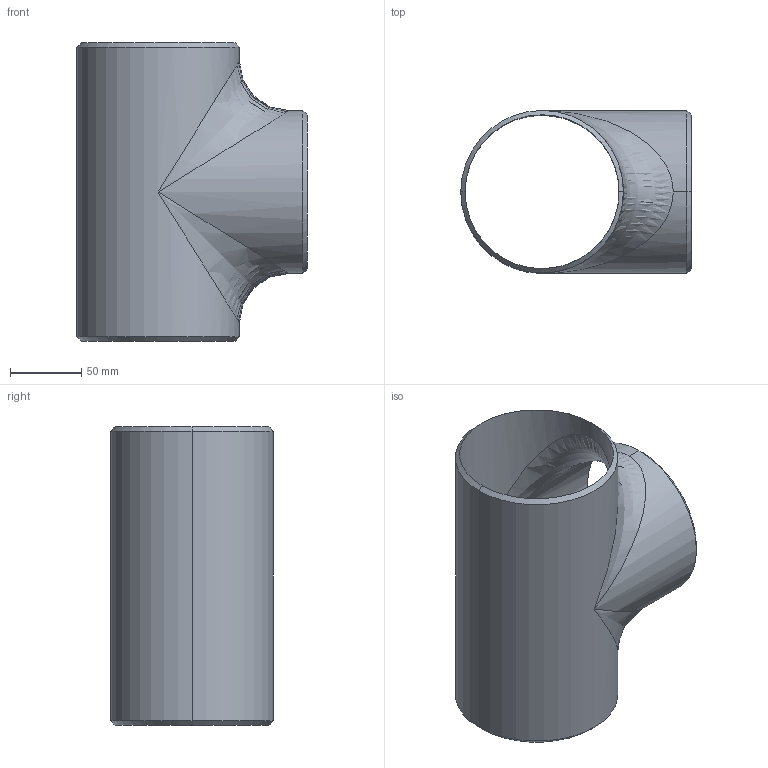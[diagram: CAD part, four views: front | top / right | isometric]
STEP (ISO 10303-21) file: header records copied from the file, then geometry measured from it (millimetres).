
FILE_DESCRIPTION (( 'STEP AP203' ), '1' );
FILE_NAME ('3D_R266_4x10S_173445210.STEP', '2024-08-23T11:14:54', ( '' ), ( '' ), 'SwSTEP 2.0', 'SolidWorks 2024', '' );
FILE_SCHEMA (( 'CONFIG_CONTROL_DESIGN' ));
Length unit declared in the file: millimetre
Products named in the file (1): 3D_R266_4x10S_173445210
Bounding box: 161.95 x 114.3 x 209.6 mm (x, y, z)
Volume: 250603.6 mm3; surface area: 168774.7 mm2
Topology: 1 solids, 1 shells, 21 faces, 58 edges, 30 vertices
Faces by surface type: cylinder 8, cone 6, bspline 4, plane 3
Entity records: 1363 total; most frequent: CARTESIAN_POINT 842, ORIENTED_EDGE 100, DIRECTION 88, EDGE_CURVE 50, AXIS2_PLACEMENT_3D 36, VERTEX_POINT 30, EDGE_LOOP 24, ADVANCED_FACE 21
